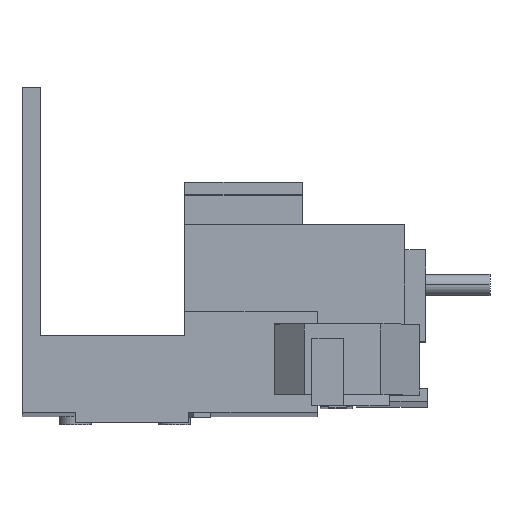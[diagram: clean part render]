
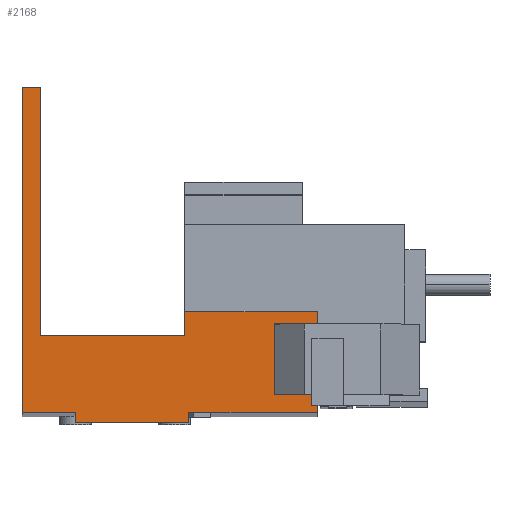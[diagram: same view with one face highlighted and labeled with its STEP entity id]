
A CAD part, front view. The second image highlights one B-rep face of the part: STEP entity #2168.
In plain terms, the highlighted planar face has unit normal (0, -1, 0.002).
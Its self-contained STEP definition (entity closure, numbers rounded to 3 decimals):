
#150 = ORIENTED_EDGE ( 'NONE', *, *, #3660, .F. ) ;
#154 = ORIENTED_EDGE ( 'NONE', *, *, #3700, .F. ) ;
#158 = ORIENTED_EDGE ( 'NONE', *, *, #3258, .F. ) ;
#160 = ORIENTED_EDGE ( 'NONE', *, *, #3802, .T. ) ;
#164 = ORIENTED_EDGE ( 'NONE', *, *, #3809, .T. ) ;
#168 = ORIENTED_EDGE ( 'NONE', *, *, #3796, .F. ) ;
#172 = ORIENTED_EDGE ( 'NONE', *, *, #3711, .F. ) ;
#176 = ORIENTED_EDGE ( 'NONE', *, *, #4262, .F. ) ;
#180 = ORIENTED_EDGE ( 'NONE', *, *, #3554, .F. ) ;
#184 = ORIENTED_EDGE ( 'NONE', *, *, #4327, .F. ) ;
#188 = ORIENTED_EDGE ( 'NONE', *, *, #4323, .F. ) ;
#523 = ORIENTED_EDGE ( 'NONE', *, *, #3702, .F. ) ;
#569 = CARTESIAN_POINT ( 'NONE',  ( 41.6, -33.075, -35.931 ) ) ;
#570 = DIRECTION ( 'NONE',  ( 0., -0.002, -1. ) ) ;
#1289 = CARTESIAN_POINT ( 'NONE',  ( 0., -33.075, -35.931 ) ) ;
#1293 = PLANE ( 'NONE',  #3985 ) ;
#1295 = DIRECTION ( 'NONE',  ( 0., 1., -0.002 ) ) ;
#1296 = DIRECTION ( 'NONE',  ( 1., 0., 0. ) ) ;
#1582 = LINE ( 'NONE', #5264, #1643 ) ;
#1590 = VECTOR ( 'NONE', #5480, 1000. ) ;
#1594 = VECTOR ( 'NONE', #5020, 1000. ) ;
#1613 = VECTOR ( 'NONE', #5365, 1000. ) ;
#1627 = VECTOR ( 'NONE', #5251, 1000. ) ;
#1637 = LINE ( 'NONE', #5239, #1939 ) ;
#1643 = VECTOR ( 'NONE', #5265, 1000. ) ;
#1650 = LINE ( 'NONE', #5043, #1690 ) ;
#1690 = VECTOR ( 'NONE', #5053, 1000. ) ;
#1723 = VECTOR ( 'NONE', #5025, 1000. ) ;
#1777 = LINE ( 'NONE', #5357, #1613 ) ;
#1825 = VECTOR ( 'NONE', #5485, 1000. ) ;
#1862 = LINE ( 'NONE', #5249, #1627 ) ;
#1911 = LINE ( 'NONE', #5484, #1825 ) ;
#1923 = LINE ( 'NONE', #5029, #1723 ) ;
#1939 = VECTOR ( 'NONE', #5241, 1000. ) ;
#1977 = LINE ( 'NONE', #5023, #1594 ) ;
#1982 = LINE ( 'NONE', #5479, #1590 ) ;
#2168 = ADVANCED_FACE ( 'NONE', ( #2256 ), #1293, .F. ) ;
#2256 = FACE_OUTER_BOUND ( 'NONE', #4198, .T. ) ;
#2421 = LINE ( 'NONE', #4692, #2582 ) ;
#2459 = VECTOR ( 'NONE', #4938, 1000. ) ;
#2467 = LINE ( 'NONE', #4937, #2459 ) ;
#2582 = VECTOR ( 'NONE', #4685, 1000. ) ;
#2658 = VECTOR ( 'NONE', #570, 1000. ) ;
#2707 = LINE ( 'NONE', #569, #2658 ) ;
#3258 = EDGE_CURVE ( 'NONE', #3271, #3327, #2707, .T. ) ;
#3263 = VERTEX_POINT ( 'NONE', #4356 ) ;
#3269 = VERTEX_POINT ( 'NONE', #4358 ) ;
#3271 = VERTEX_POINT ( 'NONE', #4364 ) ;
#3277 = VERTEX_POINT ( 'NONE', #4371 ) ;
#3282 = VERTEX_POINT ( 'NONE', #4378 ) ;
#3286 = VERTEX_POINT ( 'NONE', #4381 ) ;
#3289 = VERTEX_POINT ( 'NONE', #4384 ) ;
#3327 = VERTEX_POINT ( 'NONE', #4413 ) ;
#3350 = VERTEX_POINT ( 'NONE', #4433 ) ;
#3499 = VERTEX_POINT ( 'NONE', #4575 ) ;
#3501 = VERTEX_POINT ( 'NONE', #4576 ) ;
#3502 = VERTEX_POINT ( 'NONE', #4573 ) ;
#3554 = EDGE_CURVE ( 'NONE', #3289, #3286, #2421, .T. ) ;
#3660 = EDGE_CURVE ( 'NONE', #3277, #3282, #2467, .T. ) ;
#3700 = EDGE_CURVE ( 'NONE', #3282, #3271, #1977, .T. ) ;
#3702 = EDGE_CURVE ( 'NONE', #3327, #3501, #1923, .T. ) ;
#3711 = EDGE_CURVE ( 'NONE', #3502, #3499, #1650, .T. ) ;
#3796 = EDGE_CURVE ( 'NONE', #3263, #3502, #1637, .T. ) ;
#3802 = EDGE_CURVE ( 'NONE', #3350, #3501, #1862, .T. ) ;
#3809 = EDGE_CURVE ( 'NONE', #3263, #3350, #1582, .T. ) ;
#3985 = AXIS2_PLACEMENT_3D ( 'NONE', #1289, #1295, #1296 ) ;
#4198 = EDGE_LOOP ( 'NONE', ( #188, #184, #180, #176, #172, #168, #164, #160, #523, #158, #154, #150 ) ) ;
#4262 = EDGE_CURVE ( 'NONE', #3499, #3289, #1777, .T. ) ;
#4323 = EDGE_CURVE ( 'NONE', #3269, #3277, #1982, .T. ) ;
#4327 = EDGE_CURVE ( 'NONE', #3286, #3269, #1911, .T. ) ;
#4356 = CARTESIAN_POINT ( 'NONE',  ( 7.5, -33.078, -37.431 ) ) ;
#4358 = CARTESIAN_POINT ( 'NONE',  ( 2.55, -33.053, -25.181 ) ) ;
#4364 = CARTESIAN_POINT ( 'NONE',  ( 41.6, -33.046, -21.831 ) ) ;
#4371 = CARTESIAN_POINT ( 'NONE',  ( 22.92, -33.053, -25.181 ) ) ;
#4378 = CARTESIAN_POINT ( 'NONE',  ( 22.92, -33.046, -21.831 ) ) ;
#4381 = CARTESIAN_POINT ( 'NONE',  ( 2.55, -32.98, 9.819 ) ) ;
#4384 = CARTESIAN_POINT ( 'NONE',  ( 0., -32.98, 9.819 ) ) ;
#4413 = CARTESIAN_POINT ( 'NONE',  ( 41.6, -33.075, -35.931 ) ) ;
#4433 = CARTESIAN_POINT ( 'NONE',  ( 23.5, -33.078, -37.431 ) ) ;
#4573 = CARTESIAN_POINT ( 'NONE',  ( 7.5, -33.075, -35.931 ) ) ;
#4575 = CARTESIAN_POINT ( 'NONE',  ( 0., -33.075, -35.931 ) ) ;
#4576 = CARTESIAN_POINT ( 'NONE',  ( 23.5, -33.075, -35.931 ) ) ;
#4685 = DIRECTION ( 'NONE',  ( 1., 0., 0. ) ) ;
#4692 = CARTESIAN_POINT ( 'NONE',  ( 2.55, -32.98, 9.819 ) ) ;
#4937 = CARTESIAN_POINT ( 'NONE',  ( 22.92, -33.046, -21.831 ) ) ;
#4938 = DIRECTION ( 'NONE',  ( 0., 0.002, 1. ) ) ;
#5020 = DIRECTION ( 'NONE',  ( 1., 0., 0. ) ) ;
#5023 = CARTESIAN_POINT ( 'NONE',  ( 41.6, -33.046, -21.831 ) ) ;
#5025 = DIRECTION ( 'NONE',  ( -1., 0., 0. ) ) ;
#5029 = CARTESIAN_POINT ( 'NONE',  ( 0., -33.075, -35.931 ) ) ;
#5043 = CARTESIAN_POINT ( 'NONE',  ( 0., -33.075, -35.931 ) ) ;
#5053 = DIRECTION ( 'NONE',  ( -1., 0., 0. ) ) ;
#5239 = CARTESIAN_POINT ( 'NONE',  ( 7.5, -33.078, -37.431 ) ) ;
#5241 = DIRECTION ( 'NONE',  ( 0., 0.002, 1. ) ) ;
#5249 = CARTESIAN_POINT ( 'NONE',  ( 23.5, -33.078, -37.431 ) ) ;
#5251 = DIRECTION ( 'NONE',  ( 0., 0.002, 1. ) ) ;
#5264 = CARTESIAN_POINT ( 'NONE',  ( 7.5, -33.078, -37.431 ) ) ;
#5265 = DIRECTION ( 'NONE',  ( 1., 0., 0. ) ) ;
#5357 = CARTESIAN_POINT ( 'NONE',  ( 0., -32.98, 9.819 ) ) ;
#5365 = DIRECTION ( 'NONE',  ( 0., 0.002, 1. ) ) ;
#5479 = CARTESIAN_POINT ( 'NONE',  ( 1.75, -33.053, -25.181 ) ) ;
#5480 = DIRECTION ( 'NONE',  ( 1., 0., 0. ) ) ;
#5484 = CARTESIAN_POINT ( 'NONE',  ( 2.55, -33.072, -34.474 ) ) ;
#5485 = DIRECTION ( 'NONE',  ( 0., -0.002, -1. ) ) ;
